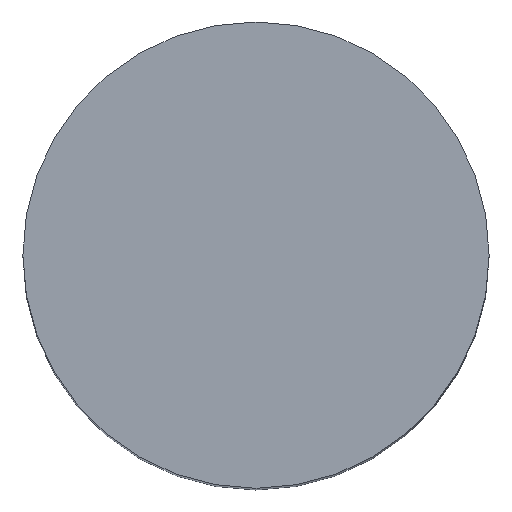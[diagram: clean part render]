
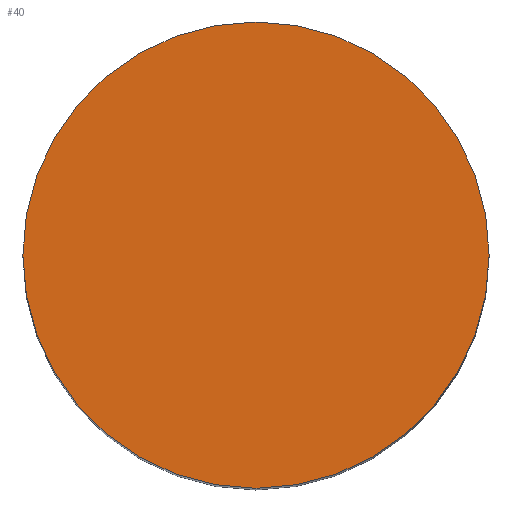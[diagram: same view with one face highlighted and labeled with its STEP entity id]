
A CAD part, top view. The second image highlights one B-rep face of the part: STEP entity #40.
In plain terms, the highlighted planar face has unit normal (0, 0, 1).
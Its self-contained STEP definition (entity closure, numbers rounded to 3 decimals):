
#15=PLANE('',#59);
#18=FACE_OUTER_BOUND('',#21,.T.);
#21=EDGE_LOOP('',(#36));
#25=CIRCLE('',#57,8.);
#27=VERTEX_POINT('',#76);
#29=EDGE_CURVE('',#27,#27,#25,.T.);
#36=ORIENTED_EDGE('',*,*,#29,.T.);
#40=ADVANCED_FACE('',(#18),#15,.T.);
#57=AXIS2_PLACEMENT_3D('',#77,#65,#66);
#59=AXIS2_PLACEMENT_3D('',#81,#70,#71);
#65=DIRECTION('center_axis',(0.,0.,1.));
#66=DIRECTION('ref_axis',(1.,0.,0.));
#70=DIRECTION('center_axis',(0.,0.,1.));
#71=DIRECTION('ref_axis',(1.,0.,0.));
#76=CARTESIAN_POINT('',(-8.,0.,34.));
#77=CARTESIAN_POINT('Origin',(0.,0.,34.));
#81=CARTESIAN_POINT('Origin',(0.,0.,34.));
